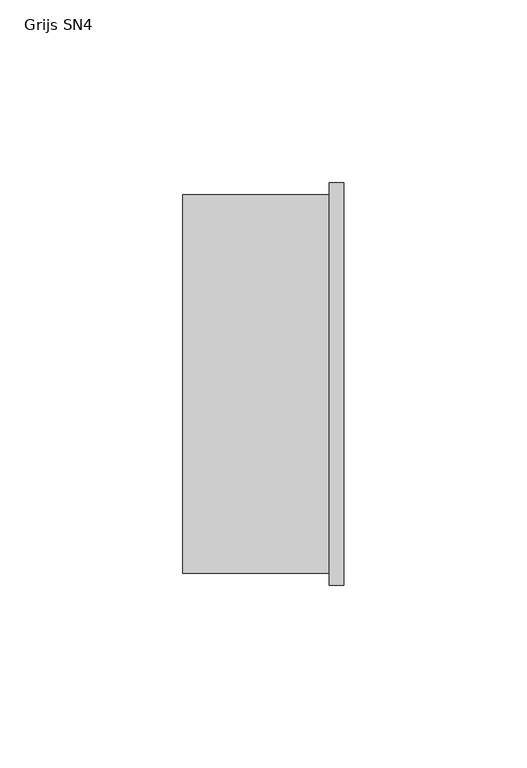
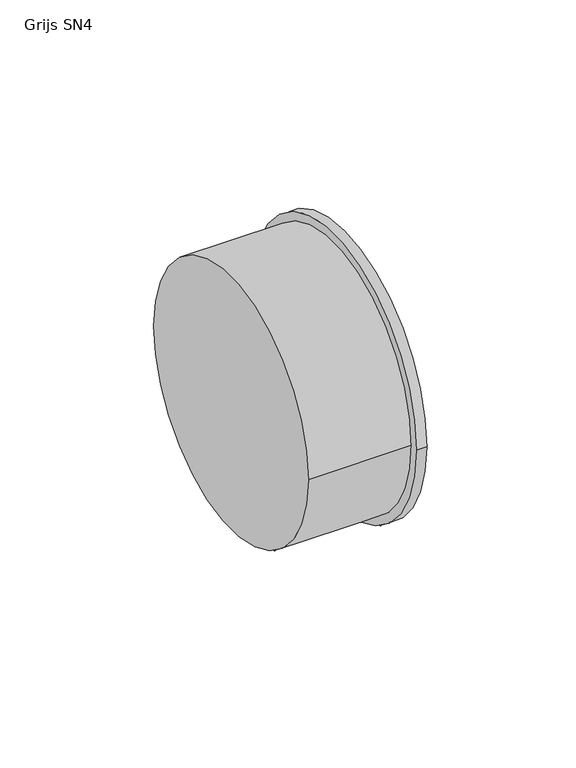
"""IFC4 building model written with IfcOpenShell, lengths in millimetres: pipe fitting geometry, NLRS_52_PIF_UN_SN4 SN8 afsluitkap_Dyka : Grijs SN4."""

from ifc_helpers import new_model, si_unit, point, frame, origin, origin_2d, place, context, project, spatial, circle_curve, trimmed, segment, composite_curve, outline, extrude, source, transform, mapped, element, save


def grijs_sn4_16296884(model_context):
    return source(origin(), model_context, "Body", "SweptSolid", [
        extrude(outline(composite_curve([segment(trimmed(circle_curve(origin_2d(), 55.0), [point((-55.0, 0.0))], [point((55.0, 0.0))], False, "CARTESIAN"), True, "CONTINUOUS"), segment(trimmed(circle_curve(origin_2d(), 55.0), [point((55.0, 0.0))], [point((-55.0, 0.0))], False, "CARTESIAN"), True, "CONTINUOUS")], self_intersect=False)), frame((0.0, 0.0, 0.0), z_axis=(1.0, 0.0, 0.0), x_axis=(0.0, 1.0, 0.0)), (0.0, 0.0, 1.0), 4.0),
        extrude(outline(composite_curve([segment(trimmed(circle_curve(origin_2d(), 51.8), [point((-51.8, 0.0))], [point((51.8, 0.0))], False, "CARTESIAN"), True, "CONTINUOUS"), segment(trimmed(circle_curve(origin_2d(), 51.8), [point((51.8, 0.0))], [point((-51.8, 0.0))], False, "CARTESIAN"), True, "CONTINUOUS")], self_intersect=False)), frame((-40.0, 0.0, 0.0), z_axis=(1.0, 0.0, 0.0), x_axis=(0.0, 1.0, 0.0)), (0.0, 0.0, 1.0), 40.0),
    ])


if __name__ == "__main__":
    model = new_model("IFC4")
    model_context = context("Model", 3, world=origin())
    ifc_project = project(units=[si_unit("LENGTHUNIT", "METRE", prefix="MILLI")], contexts=[model_context])
    site = spatial("IfcSite", under=ifc_project)
    building = spatial("IfcBuilding", under=site)
    placement = place(None, origin())
    grijs_sn4_shape = grijs_sn4_16296884(model_context)
    element("IfcPipeFitting", 1, ObjectType="NLRS_52_PIF_UN_SN4 SN8 afsluitkap_Dyka : Grijs SN4", at=placement, inside=building, context=model_context, shape_type="MappedRepresentation", body=[
        mapped(grijs_sn4_shape, transform((0.0, 0.0, 0.0), x_axis=(1.0, 0.0, 0.0), y_axis=(0.0, 1.0, 0.0), z_axis=(0.0, 0.0, 1.0))),
    ])
    save(model, "model.ifc")
